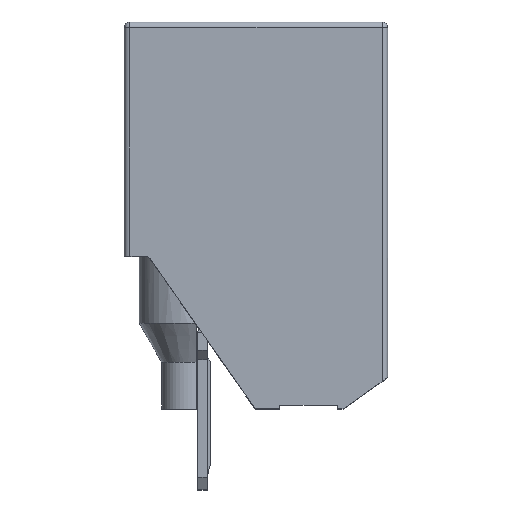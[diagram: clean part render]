
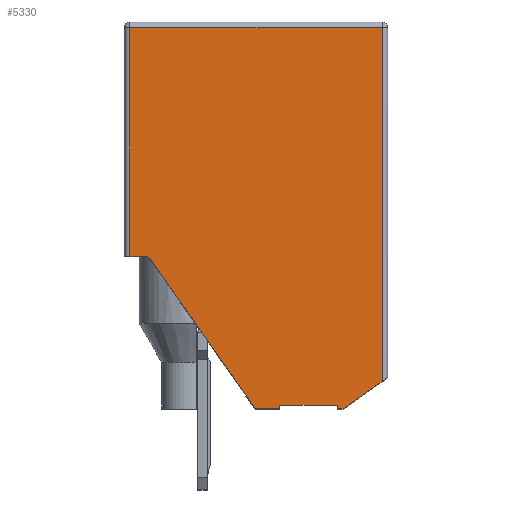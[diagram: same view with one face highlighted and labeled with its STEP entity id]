
A CAD part, top view. The second image highlights one B-rep face of the part: STEP entity #5330.
In plain terms, the highlighted planar face has unit normal (0, 0, 1).
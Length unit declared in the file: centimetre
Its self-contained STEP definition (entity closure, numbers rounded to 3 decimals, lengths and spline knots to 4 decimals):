
#124=CIRCLE('',#5665,0.03);
#366=FACE_OUTER_BOUND('',#634,.T.);
#634=EDGE_LOOP('',(#4124,#4125,#4126,#4127,#4128,#4129,#4130,#4131,#4132,
#4133,#4134,#4135));
#1110=LINE('',#8045,#1737);
#1174=LINE('',#8195,#1801);
#1176=LINE('',#8203,#1803);
#1177=LINE('',#8210,#1804);
#1179=LINE('',#8218,#1806);
#1180=LINE('',#8221,#1807);
#1181=LINE('',#8223,#1808);
#1182=LINE('',#8225,#1809);
#1183=LINE('',#8227,#1810);
#1184=LINE('',#8229,#1811);
#1185=LINE('',#8230,#1812);
#1737=VECTOR('',#6535,0.9854);
#1801=VECTOR('',#6681,1.9033);
#1803=VECTOR('',#6689,1.355);
#1804=VECTOR('',#6698,1.23);
#1806=VECTOR('',#6708,0.0832);
#1807=VECTOR('',#6711,0.1321);
#1808=VECTOR('',#6712,0.02);
#1809=VECTOR('',#6713,0.31);
#1810=VECTOR('',#6714,0.02);
#1811=VECTOR('',#6715,0.0305);
#1812=VECTOR('',#6716,0.2558);
#2292=VERTEX_POINT('',#8042);
#2293=VERTEX_POINT('',#8044);
#2335=VERTEX_POINT('',#8188);
#2338=VERTEX_POINT('',#8193);
#2341=VERTEX_POINT('',#8201);
#2343=VERTEX_POINT('',#8208);
#2345=VERTEX_POINT('',#8217);
#2346=VERTEX_POINT('',#8220);
#2347=VERTEX_POINT('',#8222);
#2348=VERTEX_POINT('',#8224);
#2349=VERTEX_POINT('',#8226);
#2350=VERTEX_POINT('',#8228);
#2904=EDGE_CURVE('',#2293,#2292,#1110,.T.);
#2977=EDGE_CURVE('',#2338,#2335,#1174,.T.);
#2981=EDGE_CURVE('',#2341,#2338,#1176,.T.);
#2984=EDGE_CURVE('',#2343,#2341,#1177,.T.);
#2988=EDGE_CURVE('',#2343,#2345,#1179,.T.);
#2989=EDGE_CURVE('',#2345,#2293,#124,.T.);
#2990=EDGE_CURVE('',#2292,#2346,#1180,.T.);
#2991=EDGE_CURVE('',#2346,#2347,#1181,.T.);
#2992=EDGE_CURVE('',#2347,#2348,#1182,.T.);
#2993=EDGE_CURVE('',#2348,#2349,#1183,.T.);
#2994=EDGE_CURVE('',#2349,#2350,#1184,.T.);
#2995=EDGE_CURVE('',#2350,#2335,#1185,.T.);
#4124=ORIENTED_EDGE('',*,*,#2977,.F.);
#4125=ORIENTED_EDGE('',*,*,#2981,.F.);
#4126=ORIENTED_EDGE('',*,*,#2984,.F.);
#4127=ORIENTED_EDGE('',*,*,#2988,.T.);
#4128=ORIENTED_EDGE('',*,*,#2989,.T.);
#4129=ORIENTED_EDGE('',*,*,#2904,.T.);
#4130=ORIENTED_EDGE('',*,*,#2990,.T.);
#4131=ORIENTED_EDGE('',*,*,#2991,.T.);
#4132=ORIENTED_EDGE('',*,*,#2992,.T.);
#4133=ORIENTED_EDGE('',*,*,#2993,.T.);
#4134=ORIENTED_EDGE('',*,*,#2994,.T.);
#4135=ORIENTED_EDGE('',*,*,#2995,.T.);
#4825=PLANE('',#5664);
#5330=ADVANCED_FACE('',(#366),#4825,.T.);
#5664=AXIS2_PLACEMENT_3D('',#8216,#6706,#6707);
#5665=AXIS2_PLACEMENT_3D('',#8219,#6709,#6710);
#6535=DIRECTION('',(0.574,-0.819,0.));
#6681=DIRECTION('',(0.,-1.,0.));
#6689=DIRECTION('',(1.,0.,0.));
#6698=DIRECTION('',(0.,1.,0.));
#6706=DIRECTION('center_axis',(0.,0.,
1.));
#6707=DIRECTION('ref_axis',(1.,0.,0.));
#6708=DIRECTION('',(1.,0.,0.));
#6709=DIRECTION('center_axis',(0.,0.,
-1.));
#6710=DIRECTION('ref_axis',(-0.819,-0.574,0.));
#6711=DIRECTION('',(1.,0.,0.));
#6712=DIRECTION('',(0.,1.,0.));
#6713=DIRECTION('',(1.,0.,0.));
#6714=DIRECTION('',(0.,-1.,0.));
#6715=DIRECTION('',(1.,0.,0.));
#6716=DIRECTION('',(0.819,0.574,0.));
#8042=CARTESIAN_POINT('',(0.7029,-2.115,0.));
#8044=CARTESIAN_POINT('',(0.1377,-1.3078,0.));
#8045=CARTESIAN_POINT('',(0.1377,-1.3078,0.));
#8188=CARTESIAN_POINT('',(1.385,-1.9683,0.));
#8193=CARTESIAN_POINT('',(1.385,-0.065,0.));
#8195=CARTESIAN_POINT('',(1.385,-1.4084,0.));
#8201=CARTESIAN_POINT('',(0.03,-0.065,0.));
#8203=CARTESIAN_POINT('',(1.091,-0.065,0.));
#8208=CARTESIAN_POINT('',(0.03,-1.295,0.));
#8210=CARTESIAN_POINT('',(0.03,-0.4884,0.));
#8216=CARTESIAN_POINT('Origin',(0.7671,-0.9768,0.));
#8217=CARTESIAN_POINT('',(0.1132,-1.295,0.));
#8218=CARTESIAN_POINT('',(0.,-1.295,0.));
#8219=CARTESIAN_POINT('Origin',(0.1132,-1.325,0.));
#8220=CARTESIAN_POINT('',(0.835,-2.115,0.));
#8221=CARTESIAN_POINT('',(0.7029,-2.115,0.));
#8222=CARTESIAN_POINT('',(0.835,-2.095,0.));
#8223=CARTESIAN_POINT('',(0.835,-2.115,0.));
#8224=CARTESIAN_POINT('',(1.145,-2.095,0.));
#8225=CARTESIAN_POINT('',(0.835,-2.095,0.));
#8226=CARTESIAN_POINT('',(1.145,-2.115,0.));
#8227=CARTESIAN_POINT('',(1.145,-2.095,0.));
#8228=CARTESIAN_POINT('',(1.1755,-2.115,0.));
#8229=CARTESIAN_POINT('',(1.145,-2.115,0.));
#8230=CARTESIAN_POINT('',(1.1755,-2.115,0.));
